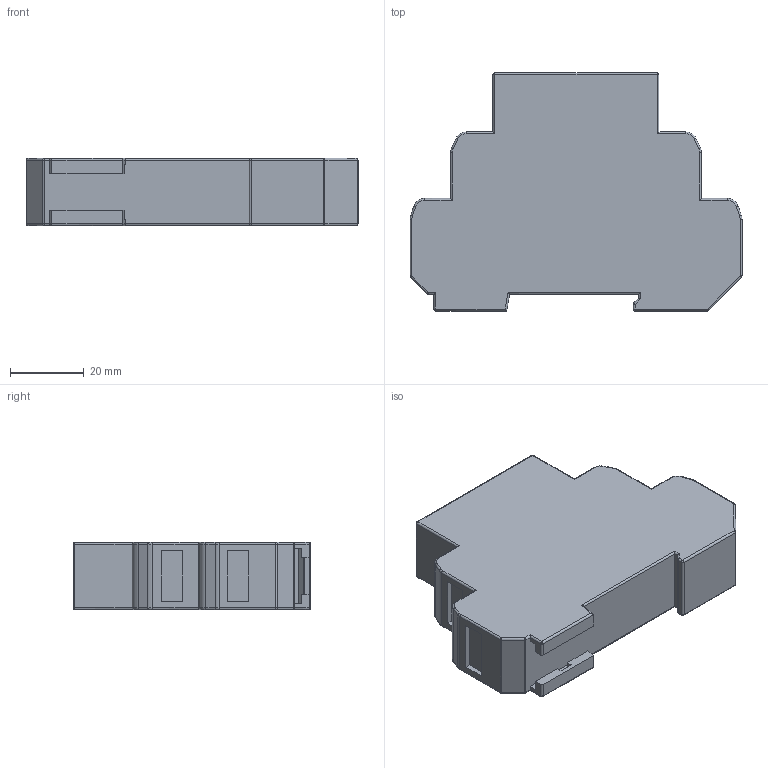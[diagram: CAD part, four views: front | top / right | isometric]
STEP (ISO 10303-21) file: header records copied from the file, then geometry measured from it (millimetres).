
FILE_DESCRIPTION(/* description */ (''),/* implementation_level */ '2;1');
FILE_NAME(/* name */ 'K:\PROJEKTY ROZPRACOVANÉ\MODELY DO KATALOGU\DTE, ZS-1DSM, HDT\3D - STEP\HDT_6_24.stp',/* time_stamp */ '2021-04-06T09:21:37+02:00',/* author */ ('miko'),/* organization */ (''),/* preprocessor_version */ 'ST-DEVELOPER v18.1',/* originating_system */ 'Autodesk Inventor 2021',/* authorisation */ '');
FILE_SCHEMA (('AUTOMOTIVE_DESIGN { 1 0 10303 214 3 1 1 }'));
Length unit declared in the file: millimetre
Products named in the file (3): HDT_6_24; HDT_6_24_1; ISO 1207  - M1,6 x 3
Assembly tree (11 placements, depth 2):
  HDT_6_24
    HDT_6_24_1
    ISO 1207  - M1,6 x 3  x10
Bounding box: 90 x 64.5 x 18.3 mm (x, y, z)
Volume: 78878.4 mm3; surface area: 15894.2 mm2
Topology: 11 solids, 12 shells, 361 faces, 796 edges, 488 vertices
Faces by surface type: plane 164, cylinder 112, torus 36, cone 30, sphere 19
Full cylindrical faces by diameter (mm): 1.416 x10, 1.6 x10, 3 x1, 3.5 x11
Entity records: 6587 total; most frequent: DIRECTION 1208, CARTESIAN_POINT 1109, ORIENTED_EDGE 1032, EDGE_CURVE 516, AXIS2_PLACEMENT_3D 447, LINE 314, VECTOR 314, VERTEX_POINT 308
